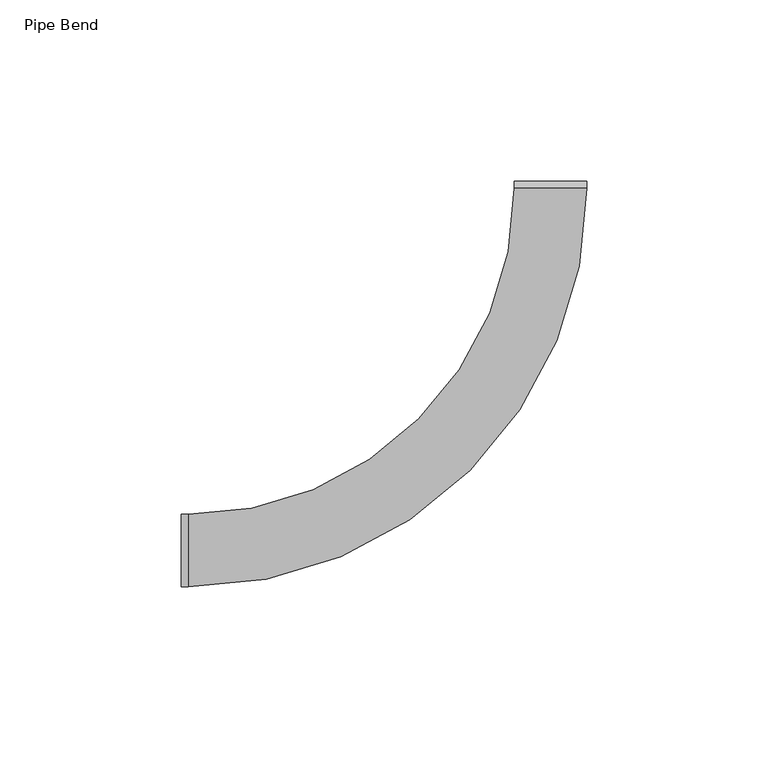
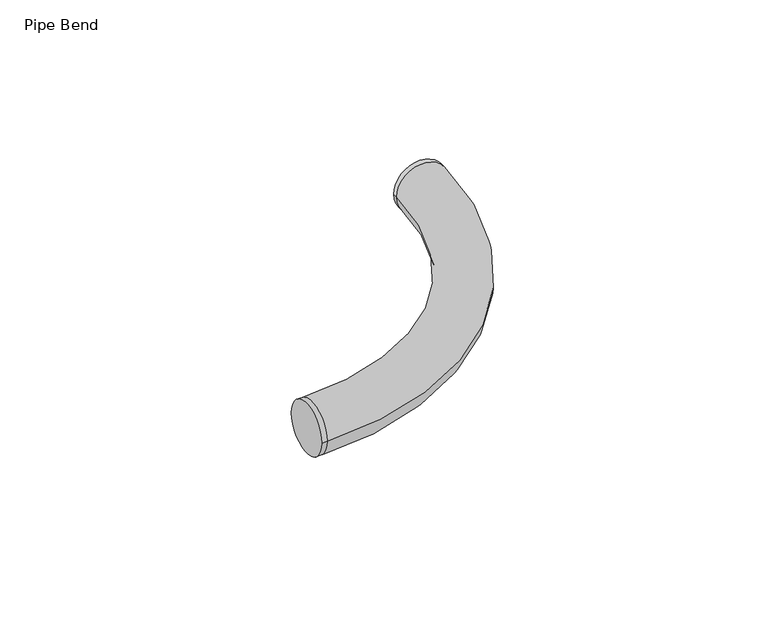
"""IFC4 building model written with IfcOpenShell, lengths in millimetres: pipe fitting geometry, Pipe Bend : Superpipe 2-MAX Pipe bend."""

from ifc_helpers import new_model, si_unit, point, frame, origin, place, context, project, spatial, circle_curve, ellipse_curve, trimmed, source, transform, mapped, element, save
from ifc_brep_helpers import plane_surface, cylinder_surface, revolved_surface, advanced_brep


def pipe_bend_7fa1795d(model_context):
    return source(origin(), model_context, "Body", "AdvancedBrep", [
        advanced_brep(
        [(-102.0, -10.0, 0.0), (-102.0, 10.0, 0.0), (-100.0, -10.0, 0.0), (-100.0, 10.0, 0.0), (-10.0, 100.0, 0.0), (10.0, 100.0, 0.0), (0.0, 100.0, 10.0), (0.0, 100.0, -10.0), (10.0, 102.0, 0.0), (-10.0, 102.0, 0.0)],
        [
            (0, 1, circle_curve(frame((-102.0, 0.0, 0.0), z_axis=(-1.0, 0.0, 0.0), x_axis=(0.0, 1.0, 0.0)), 10.0)),
            (1, 0, circle_curve(frame((-102.0, 0.0, 0.0), z_axis=(-1.0, 0.0, 0.0), x_axis=(0.0, 1.0, 0.0)), 10.0)),
            (0, 2),
            (2, 3, circle_curve(frame((-100.0, 0.0, 0.0), z_axis=(-1.0, 0.0, 0.0), x_axis=(0.0, 1.0, 0.0)), 10.0)),
            (3, 1),
            (3, 2, circle_curve(frame((-100.0, 0.0, 0.0), z_axis=(-1.0, 0.0, 0.0), x_axis=(0.0, 1.0, 0.0)), 10.0)),
            (4, 3, circle_curve(frame((-100.0, 100.0, 0.0), z_axis=(0.0, 0.0, -1.0), x_axis=(0.0, -1.0, 0.0)), 90.0)),
            (2, 5, circle_curve(frame((-100.0, 100.0, 0.0), z_axis=(0.0, 0.0, 1.0), x_axis=(0.0, -1.0, 0.0)), 110.0)),
            (5, 6, circle_curve(frame((0.0, 100.0, 0.0), z_axis=(0.0, -1.0, 0.0), x_axis=(-1.0, 0.0, 0.0)), 10.0)),
            (6, 4, circle_curve(frame((0.0, 100.0, 0.0), z_axis=(0.0, -1.0, 0.0), x_axis=(-1.0, 0.0, 0.0)), 10.0)),
            (4, 7, circle_curve(frame((0.0, 100.0, 0.0), z_axis=(0.0, -1.0, 0.0), x_axis=(-1.0, 0.0, 0.0)), 10.0)),
            (7, 5, circle_curve(frame((0.0, 100.0, 0.0), z_axis=(0.0, -1.0, 0.0), x_axis=(-1.0, 0.0, 0.0)), 10.0)),
            (8, 9, circle_curve(frame((0.0, 102.0, 0.0), z_axis=(0.0, 1.0, 0.0), x_axis=(-1.0, 0.0, 0.0)), 10.0)),
            (9, 8, circle_curve(frame((0.0, 102.0, 0.0), z_axis=(0.0, 1.0, 0.0), x_axis=(-1.0, 0.0, 0.0)), 10.0)),
            (9, 4),
            (5, 8),
        ],
        [
            plane_surface(frame((-102.0, 0.0, 0.0), z_axis=(-1.0, 0.0, 0.0), x_axis=(0.0, 0.0, 1.0))),
            cylinder_surface(frame((-102.0, 0.0, 0.0), z_axis=(-1.0, 0.0, 0.0), x_axis=(0.0, 1.0, 0.0)), 10.0),
            revolved_surface(trimmed(ellipse_curve(frame((-100.0, 0.0, 0.0), z_axis=(-1.0, 0.0, 0.0), x_axis=(0.0, 1.0, 0.0)), 10.0, 10.0), [point((-100.0, -10.0, 0.0))], [point((-100.0, 10.0, 0.0))], True, "CARTESIAN"), (-100.0, 100.0, 0.0), (0.0, 0.0, 1.0)),
            revolved_surface(trimmed(ellipse_curve(frame((-100.0, 0.0, 0.0), z_axis=(-1.0, 0.0, 0.0), x_axis=(0.0, 1.0, 0.0)), 10.0, 10.0), [point((-100.0, 10.0, 0.0))], [point((-100.0, -10.0, 0.0))], True, "CARTESIAN"), (-100.0, 100.0, 0.0), (0.0, 0.0, 1.0)),
            plane_surface(frame((0.0, 102.0, 0.0), z_axis=(0.0, 1.0, 0.0), x_axis=(0.0, 0.0, 1.0))),
            cylinder_surface(frame((0.0, 100.0, 0.0), z_axis=(0.0, -1.0, 0.0), x_axis=(-1.0, 0.0, 0.0)), 10.0),
        ],
        [
            (0, [[1, 2]]),
            (1, [[-1, 3, 4, 5]]),
            (1, [[-2, -5, 6, -3]]),
            (2, [[7, -4, 8, 9, 10]]),
            (3, [[-7, 11, 12, -8, -6]]),
            (4, [[13, 14]]),
            (5, [[-14, 15, -10, -9, 16]]),
            (5, [[-13, -16, -12, -11, -15]]),
        ],
    ),
    ])


if __name__ == "__main__":
    model = new_model("IFC4")
    model_context = context("Model", 3, world=origin())
    ifc_project = project(units=[si_unit("LENGTHUNIT", "METRE", prefix="MILLI")], contexts=[model_context])
    site = spatial("IfcSite", under=ifc_project)
    building = spatial("IfcBuilding", under=site)
    placement = place(None, origin())
    pipe_bend_shape = pipe_bend_7fa1795d(model_context)
    element("IfcPipeFitting", 1, ObjectType="Pipe Bend : Superpipe 2-MAX Pipe bend", at=placement, inside=building, context=model_context, shape_type="MappedRepresentation", body=[
        mapped(pipe_bend_shape, transform((0.0, 0.0, 0.0), x_axis=(1.0, 0.0, 0.0), y_axis=(0.0, 1.0, 0.0), z_axis=(0.0, 0.0, 1.0))),
    ])
    save(model, "model.ifc")
